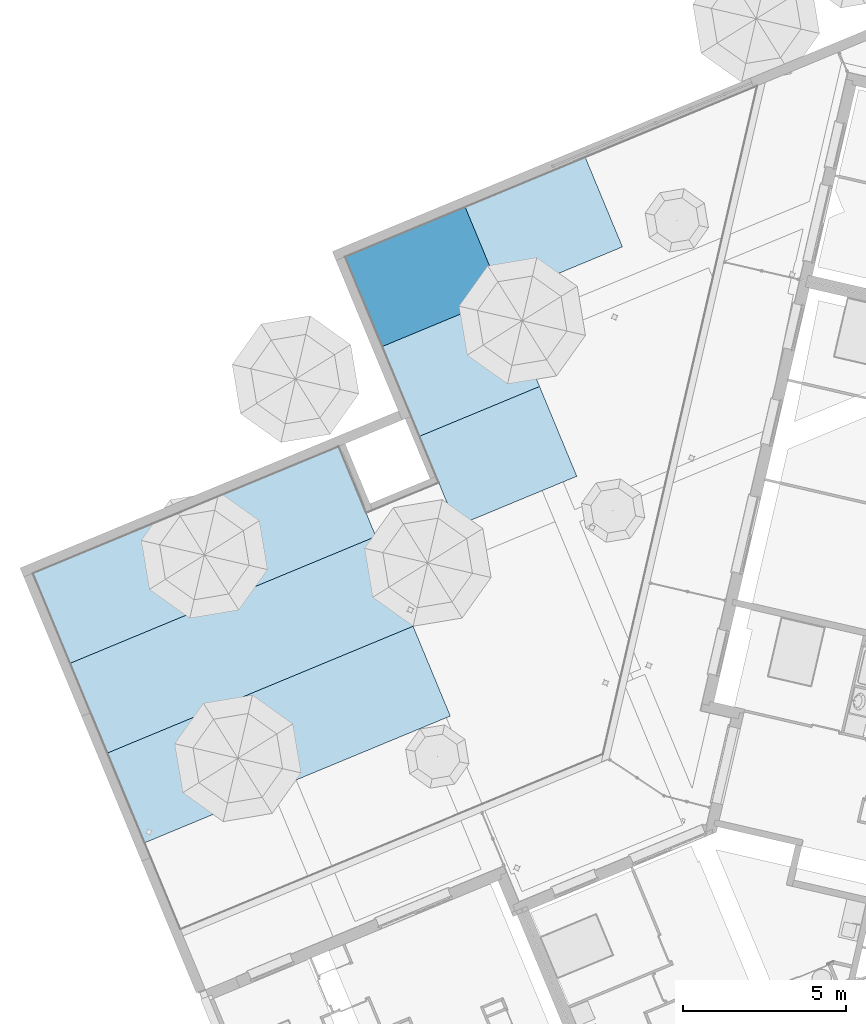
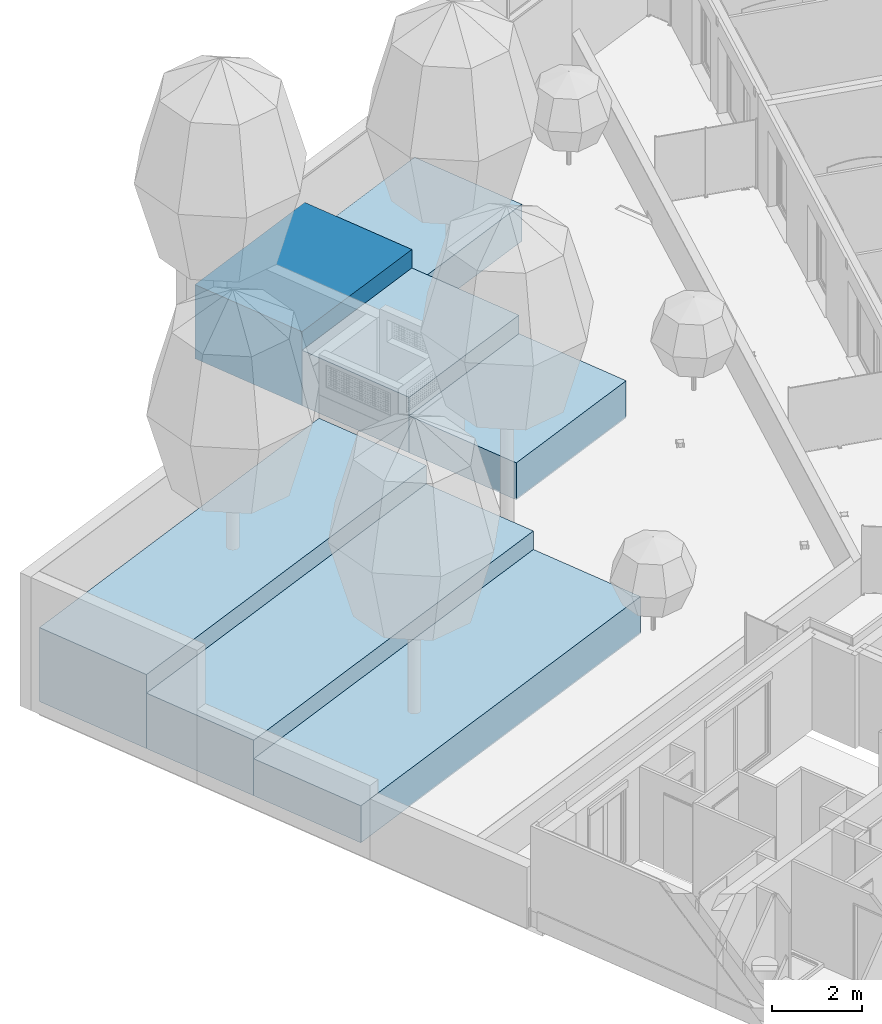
# One storey, part 2 of 119: 7 roofs.
"""IFC2X3 building model written with IfcOpenShell, lengths in metres."""

from ifc_helpers import new_model, entity, si_unit, converted_unit, derived_unit, money_unit, direction, frame, origin_with_axes, place, context, subcontext, project, spatial, faceted_brep, source, transform, mapped, material, element, save


model = new_model("IFC2X3")

# Units and contexts
model_context = context("Model", 3, precision=1e-05, world=origin_with_axes(), true_north=direction((0.0, 1.0)))
body_context = subcontext(model_context, "Body", "Model", "MODEL_VIEW")
ifc_project = project(units=[si_unit("LENGTHUNIT", "METRE"), si_unit("AREAUNIT", "SQUARE_METRE"), si_unit("VOLUMEUNIT", "CUBIC_METRE"), converted_unit("PLANEANGLEUNIT", "DEGREE", entity("IfcPlaneAngleMeasure", 0.0174532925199), si_unit("PLANEANGLEUNIT", "RADIAN"), dimensions=[0, 0, 0, 0, 0, 0, 0]), si_unit("SOLIDANGLEUNIT", "STERADIAN"), money_unit("EUR"), converted_unit("TIMEUNIT", "Year", entity("IfcTimeMeasure", 31556926.0), si_unit("TIMEUNIT", "SECOND"), dimensions=[0, 0, 1, 0, 0, 0, 0]), si_unit("MASSUNIT", "GRAM", prefix="KILO"), si_unit("THERMODYNAMICTEMPERATUREUNIT", "DEGREE_CELSIUS"), si_unit("LUMINOUSINTENSITYUNIT", "LUMEN"), si_unit("ENERGYUNIT", "JOULE", prefix="MEGA"), derived_unit("THERMALCONDUCTANCEUNIT", [(si_unit("POWERUNIT", "WATT"), 1), (si_unit("LENGTHUNIT", "METRE"), -1), (si_unit("THERMODYNAMICTEMPERATUREUNIT", "KELVIN"), -1)]), derived_unit("SPECIFICHEATCAPACITYUNIT", [(si_unit("ENERGYUNIT", "JOULE"), 1), (si_unit("MASSUNIT", "GRAM", prefix="KILO"), -1), (si_unit("THERMODYNAMICTEMPERATUREUNIT", "KELVIN"), -1)]), derived_unit("MASSDENSITYUNIT", [(si_unit("MASSUNIT", "GRAM", prefix="KILO"), 1), (si_unit("VOLUMEUNIT", "CUBIC_METRE"), -1)])], contexts=[model_context])

# Site, building, storey
site_placement = place(None, origin_with_axes())
site = spatial("IfcSite", under=ifc_project, at=site_placement, Name="Site", CompositionType="ELEMENT")
building_placement = place(site_placement, origin_with_axes())
building = spatial("IfcBuilding", under=site, at=building_placement, Name="Bâtiment", CompositionType="ELEMENT")
storey_placement = place(building_placement, origin_with_axes())
storey = spatial("IfcBuildingStorey", under=building, at=storey_placement, Name="Rez-de-chaussée", CompositionType="ELEMENT", Elevation=0.0)

# Roofs
ifc_material = material(Name="Volume drainant enterré")
shared_shape = source(origin_with_axes(), body_context, "Body", "Brep", [
    faceted_brep([(0.0, 0.0, 0.0), (0.0, 2.98999999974, 0.0), (4.0, 2.98999999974, 0.0), (4.0, 0.0, 0.0), (0.0, 0.0, 1.0), (0.0, 2.98999999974, 1.0), (4.0, 2.98999999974, 1.0), (4.0, 0.0, 1.0)], [[[0, 1, 2, 3]], [[1, 0, 4, 5]], [[5, 6, 2, 1]], [[6, 7, 3, 2]], [[7, 4, 0, 3]], [[5, 4, 7, 6]]]),
])
for number, where, z_axis, x_axis, name in (
    (1, (-27.4744936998, -3.59068129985, 0.05), (0.0, 0.0, 1.0), (0.923701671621, 0.383112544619, 0.0), "MOB-004"),
    (2, (-26.07070003, 3.46550487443, 0.05), (0.0, 0.0, 1.0), (0.923701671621, 0.383112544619, 0.0), "MOB-004"),
):
    element("IfcRoof", number, at=place(storey_placement, frame(where, z_axis=z_axis, x_axis=x_axis)), inside=storey, material=ifc_material, Name=name, ObjectType="SHED_ROOF", ShapeType="NOTDEFINED", context=body_context, shape_type="MappedRepresentation", body=[
        mapped(shared_shape, transform((0.0, 0.0, 0.0))),
    ])
roof_1_placement = place(storey_placement, frame((-29.7655067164, 1.93305469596, 0.05), z_axis=(0.0, 0.0, 1.0), x_axis=(0.923701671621, 0.383112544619, 0.0)))
element("IfcRoof", 3, at=roof_1_placement, inside=storey, material=ifc_material, Name="MOB-004", ObjectType="SHED_ROOF", ShapeType="NOTDEFINED", context=body_context, shape_type="Brep", body=[
    faceted_brep([(0.0, 0.0, 0.0), (0.0, 2.98999999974, 0.0), (4.0, 2.98999999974, 0.0), (4.0, 0.0, 0.0), (0.0, 0.0, 2.0), (0.0, 2.98999999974, 2.0), (4.0, 2.98999999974, 2.0), (4.0, 0.0, 2.0)], [[[0, 1, 2, 3]], [[1, 0, 4, 5]], [[5, 6, 2, 1]], [[6, 7, 3, 2]], [[7, 4, 0, 3]], [[5, 4, 7, 6]]]),
])
roof_2_placement = place(storey_placement, frame((-38.2224366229, -10.5739230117, 0.05), z_axis=(0.0, 0.0, 1.0), x_axis=(0.923701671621, 0.383112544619, 0.0)))
element("IfcRoof", 4, at=roof_2_placement, inside=storey, material=ifc_material, Name="MOB-004", ObjectType="SHED_ROOF", ShapeType="NOTDEFINED", context=body_context, shape_type="Brep", body=[
    faceted_brep([(0.0, 0.0, 0.0), (0.0, 2.98999999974, 0.0), (10.1832671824, 2.98999999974, 0.0), (10.1832671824, 0.0, 0.0), (0.0, 0.0, 1.5), (0.0, 2.98999999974, 1.5), (10.1832671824, 2.98999999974, 1.5), (10.1832671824, 0.0, 1.5)], [[[0, 1, 2, 3]], [[1, 0, 4, 5]], [[5, 6, 2, 1]], [[6, 7, 3, 2]], [[7, 4, 0, 3]], [[5, 4, 7, 6]]]),
])
roof_3_placement = place(storey_placement, frame((-28.6200002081, -0.828813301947, 0.05), z_axis=(0.0, 0.0, 1.0), x_axis=(0.923701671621, 0.383112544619, 0.0)))
element("IfcRoof", 5, at=roof_3_placement, inside=storey, material=ifc_material, Name="MOB-004", ObjectType="SHED_ROOF", ShapeType="NOTDEFINED", context=body_context, shape_type="Brep", body=[
    faceted_brep([(0.0, 0.0, 0.0), (0.0, 2.98999999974, 0.0), (4.0, 2.98999999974, 0.0), (4.0, 0.0, 0.0), (0.0, 0.0, 1.5), (0.0, 2.98999999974, 1.5), (4.0, 2.98999999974, 1.5), (4.0, 0.0, 1.5)], [[[0, 1, 2, 3]], [[1, 0, 4, 5]], [[5, 6, 2, 1]], [[6, 7, 3, 2]], [[7, 4, 0, 3]], [[5, 4, 7, 6]]]),
])
roof_4_placement = place(storey_placement, frame((-39.3679431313, -7.81205501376, 0.05), z_axis=(0.0, 0.0, 1.0), x_axis=(0.923701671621, 0.383112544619, 0.0)))
element("IfcRoof", 6, at=roof_4_placement, inside=storey, material=ifc_material, Name="MOB-004", ObjectType="SHED_ROOF", ShapeType="NOTDEFINED", context=body_context, shape_type="Brep", body=[
    faceted_brep([(0.0, 0.0, 0.0), (0.0, 2.98999999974, 0.0), (10.1832671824, 2.98999999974, 0.0), (10.1832671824, 0.0, 0.0), (0.0, 0.0, 2.0), (0.0, 2.98999999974, 2.0), (10.1832671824, 2.98999999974, 2.0), (10.1832671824, 0.0, 2.0)], [[[0, 1, 2, 3]], [[1, 0, 4, 5]], [[5, 6, 2, 1]], [[6, 7, 3, 2]], [[7, 4, 0, 3]], [[5, 4, 7, 6]]]),
])
roof_5_placement = place(storey_placement, frame((-37.0769301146, -13.3357910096, 0.05), z_axis=(0.0, 0.0, 1.0), x_axis=(0.923701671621, 0.383112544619, 0.0)))
element("IfcRoof", 7, at=roof_5_placement, inside=storey, material=ifc_material, Name="MOB-004", ObjectType="SHED_ROOF", ShapeType="NOTDEFINED", context=body_context, shape_type="Brep", body=[
    faceted_brep([(0.0, 0.0, 0.0), (0.0, 2.98999999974, 0.0), (10.1832671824, 2.98999999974, 0.0), (10.1832671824, 0.0, 0.0), (0.0, 0.0, 1.0), (0.0, 2.98999999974, 1.0), (10.1832671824, 2.98999999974, 1.0), (10.1832671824, 0.0, 1.0)], [[[0, 1, 2, 3]], [[1, 0, 4, 5]], [[5, 6, 2, 1]], [[6, 7, 3, 2]], [[7, 4, 0, 3]], [[5, 4, 7, 6]]]),
])

save(model, "model.ifc")
